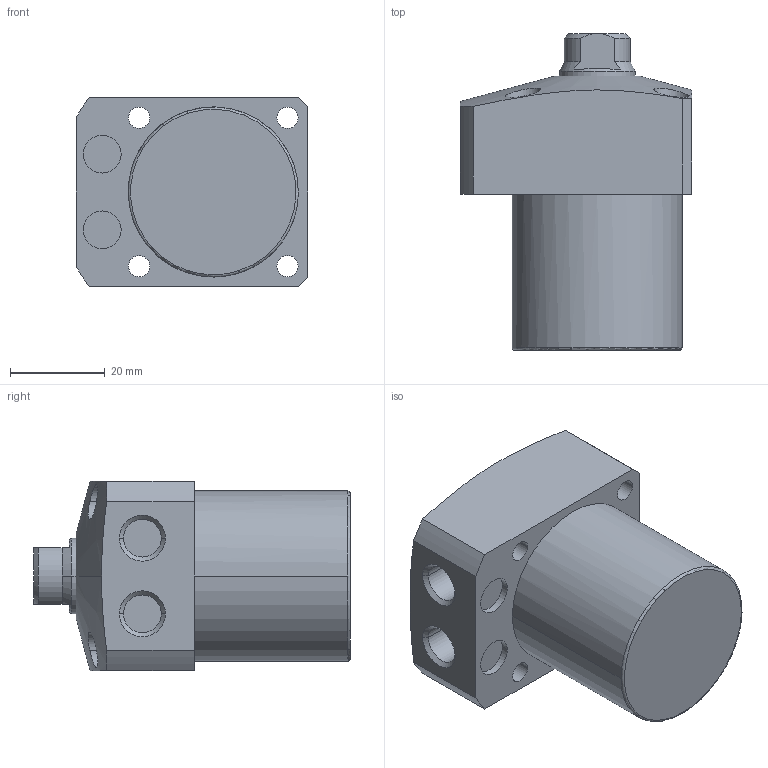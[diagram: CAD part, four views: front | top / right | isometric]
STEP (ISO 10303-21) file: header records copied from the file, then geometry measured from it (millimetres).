
FILE_DESCRIPTION((' '),'2;1');
FILE_NAME( 'TLL-036CA-025.STEP.stp', '2025-10-24T16:39:36', (' '), ('--- Datakit www.datakit.com---'), ' Datakit CrossCadWare V2024.1 Dec 21 2023', 'Mastercam 2025', ' ');
FILE_SCHEMA(('AUTOMOTIVE_DESIGN { 1 0 10303 214 1 1 1 1 }'));
Length unit declared in the file: millimetre
Products named in the file (1): TLL-036CA-025
Bounding box: 49 x 67 x 40 mm (x, y, z)
Volume: 75032.4 mm3; surface area: 13907.7 mm2
Topology: 1 solids, 1 shells, 72 faces, 209 edges, 148 vertices
Faces by surface type: cylinder 34, plane 22, cone 14, torus 2
Entity records: 4844 total; most frequent: CARTESIAN_POINT 2840, DIRECTION 430, ORIENTED_EDGE 414, EDGE_CURVE 207, AXIS2_PLACEMENT_3D 184, VERTEX_POINT 148, CIRCLE 111, EDGE_LOOP 91
